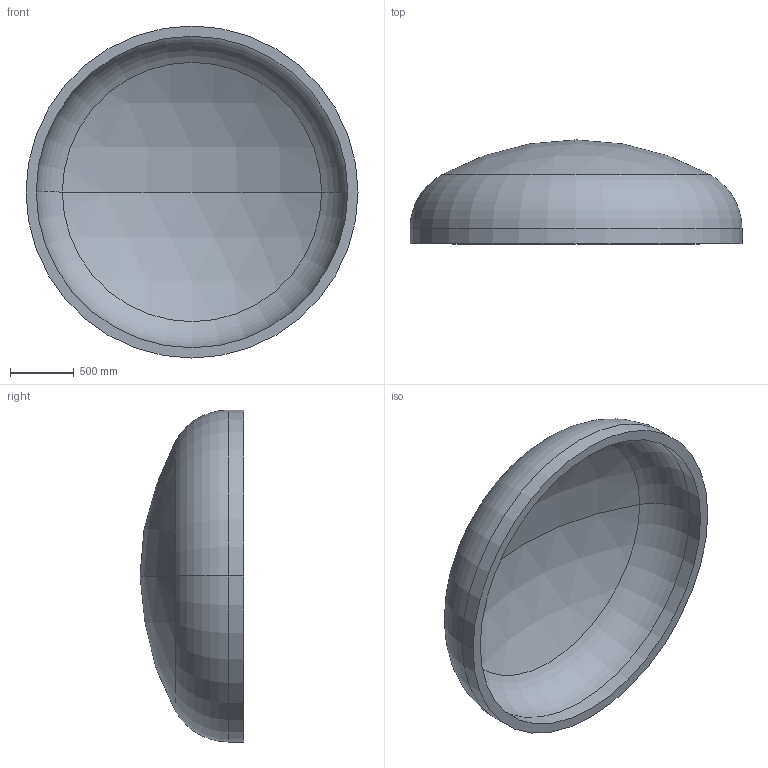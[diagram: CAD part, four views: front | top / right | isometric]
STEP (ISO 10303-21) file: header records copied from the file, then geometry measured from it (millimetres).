
FILE_DESCRIPTION (( 'STEP AP203' ), '1' );
FILE_NAME ('DIN 28013 Korbbogenform_-_Boden DIN 28013 - 2600 x 120 - I - s=80.step', '2016-07-01T16:25:33', ( '' ), ( '' ), 'SwSTEP 2.0', 'SolidWorks 2013', '' );
FILE_SCHEMA (( 'CONFIG_CONTROL_DESIGN' ));
Length unit declared in the file: millimetre
Products named in the file (1): DIN 28013 Korbbogenform_-_Boden DIN 28013 - 2600 x 120 - I - s=80
Bounding box: 2600 x 813.71 x 2600 mm (x, y, z)
Volume: 640988051.8 mm3; surface area: 16671445.5 mm2
Topology: 1 solids, 1 shells, 13 faces, 24 edges, 14 vertices
Faces by surface type: torus 4, cylinder 4, sphere 4, plane 1
Entity records: 407 total; most frequent: DIRECTION 72, CARTESIAN_POINT 52, ORIENTED_EDGE 48, AXIS2_PLACEMENT_3D 34, EDGE_CURVE 24, CIRCLE 20, VERTEX_POINT 14, EDGE_LOOP 14
